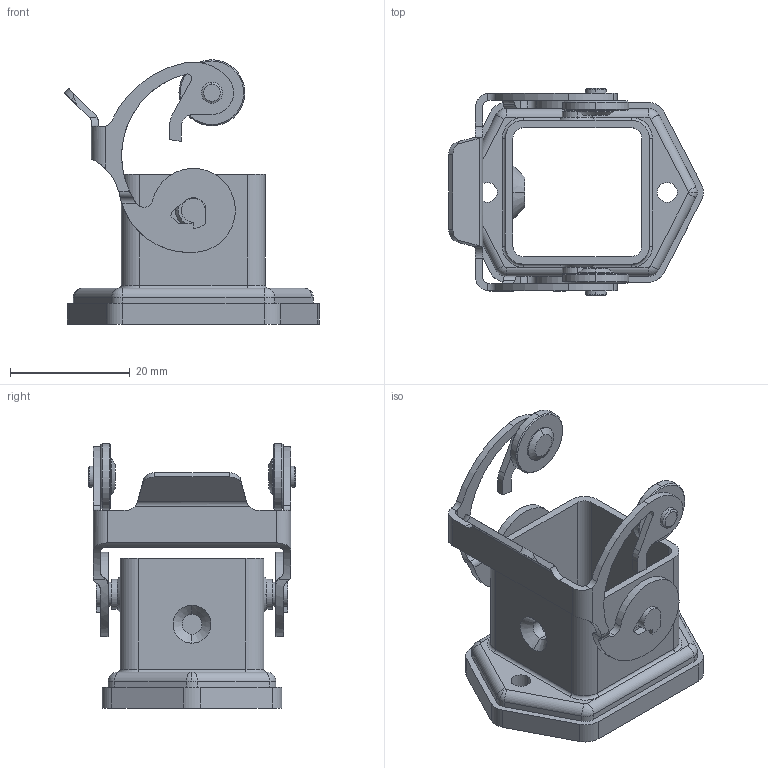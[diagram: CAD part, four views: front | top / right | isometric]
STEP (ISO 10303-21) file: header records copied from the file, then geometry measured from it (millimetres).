
FILE_DESCRIPTION (( 'STEP AP203' ), '1' );
FILE_NAME ('KAF4.STEP', '2013-04-25T12:03:14', ( '' ), ( '' ), 'SwSTEP 2.0', 'SolidWorks 2010', '' );
FILE_SCHEMA (( 'CONFIG_CONTROL_DESIGN' ));
Length unit declared in the file: millimetre
Products named in the file (1): KAF4
Bounding box: 42.45 x 34.6 x 44.1 mm (x, y, z)
Volume: 6918 mm3; surface area: 8675.2 mm2
Topology: 1 solids, 1 shells, 304 faces, 797 edges, 515 vertices
Faces by surface type: cylinder 141, plane 127, cone 24, torus 12
Entity records: 9727 total; most frequent: CARTESIAN_POINT 1941, DIRECTION 1668, ORIENTED_EDGE 1594, EDGE_CURVE 797, AXIS2_PLACEMENT_3D 612, VERTEX_POINT 515, VECTOR 444, LINE 444
